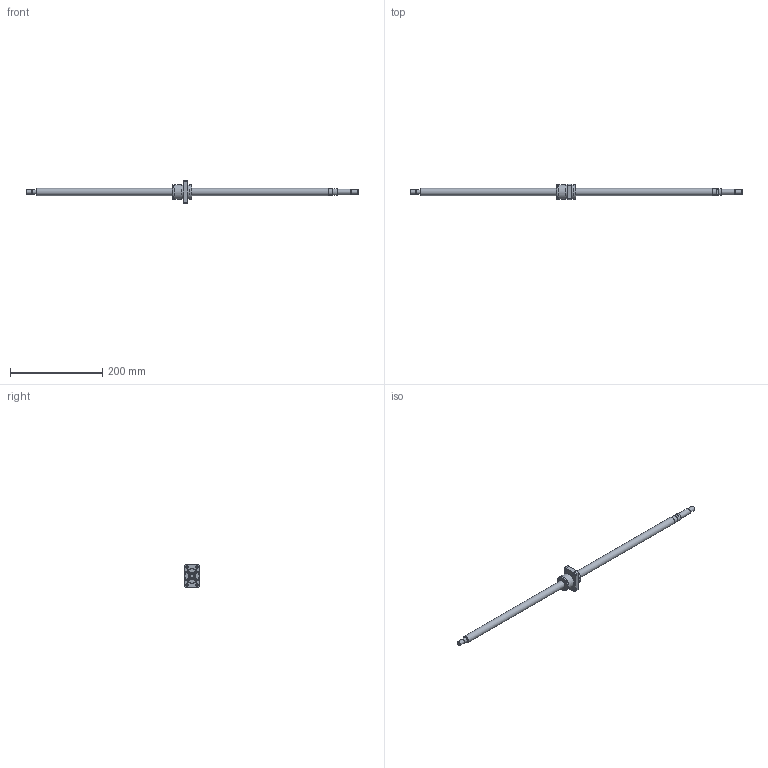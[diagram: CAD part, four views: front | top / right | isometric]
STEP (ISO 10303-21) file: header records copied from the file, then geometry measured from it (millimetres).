
FILE_DESCRIPTION(/* description */ ('STEP AP203'),/* implementation_level */ '2;1');
FILE_NAME(/* name */ 'BNK1616-3.6G0+721LC5Y(3380)',/* time_stamp */ '2024-07-09T09:32:10+02:00',/* author */ ('License CC BY-ND 4.0'),/* organization */ ('CADENAS'),/* preprocessor_version */ 'ST-DEVELOPER v19.3',/* originating_system */ 'PARTsolutions',/* authorisation */ ' ');
FILE_SCHEMA (('CONFIG_CONTROL_DESIGN'));
Length unit declared in the file: millimetre
Products named in the file (3): BNK1616-3.6G0+721LC5Y(3380); BNK 1616-3.6G0+721LC5Y Shaft; BNK 1616-3.6G0+721LC5Y0 Nut
Assembly tree (2 placements, depth 2):
  BNK1616-3.6G0+721LC5Y(3380)
    BNK 1616-3.6G0+721LC5Y Shaft
    BNK 1616-3.6G0+721LC5Y0 Nut
Bounding box: 721 x 34 x 50 mm (x, y, z)
Volume: 168291 mm3; surface area: 46857 mm2
Topology: 2 solids, 2 shells, 136 faces, 312 edges, 202 vertices
Faces by surface type: plane 75, cylinder 35, cone 20, torus 6
Full cylindrical faces by diameter (mm): 5.188 x1, 5.5 x8, 9.5 x4, 9.6 x1, 10 x3, 12 x1, 14 x1, 15 x1, 16 x2, 28.8 x1, 31.8 x2, 32 x2
Entity records: 3705 total; most frequent: CARTESIAN_POINT 676, DIRECTION 626, ORIENTED_EDGE 530, EDGE_CURVE 265, AXIS2_PLACEMENT_3D 247, FACE_BOUND 210, EDGE_LOOP 209, VERTEX_POINT 197
